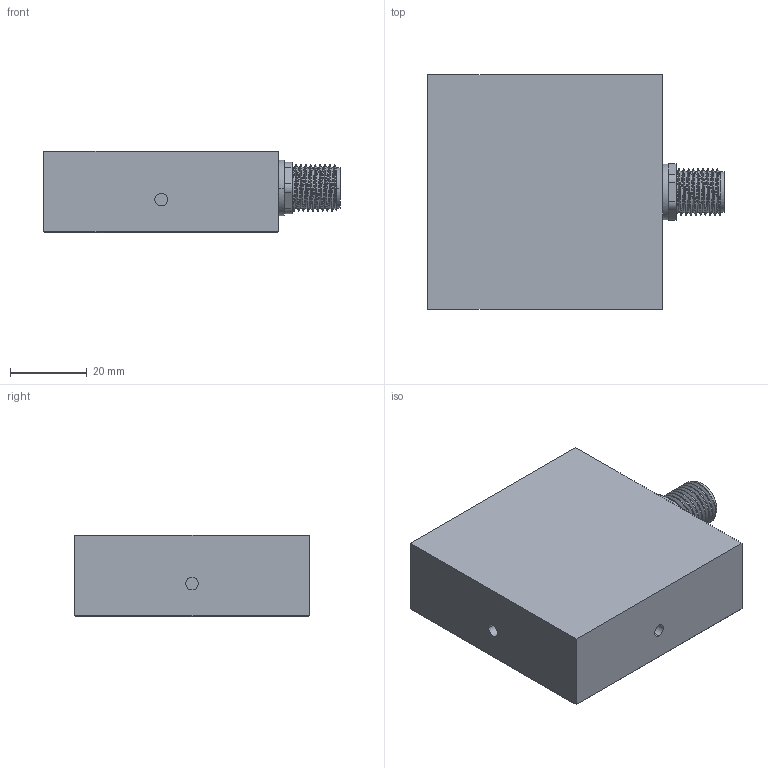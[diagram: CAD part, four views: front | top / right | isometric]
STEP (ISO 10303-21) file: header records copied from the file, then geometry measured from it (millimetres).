
FILE_DESCRIPTION (( 'STEP AP214' ), '1' );
FILE_NAME ('CSBACKII-xxxx-xxx_CLIENT0505.STEP', '2022-04-01T09:18:25', ( '' ), ( '' ), 'SwSTEP 2.0', 'SolidWorks 2020', '' );
FILE_SCHEMA (( 'AUTOMOTIVE_DESIGN' ));
Length unit declared in the file: millimetre
Products named in the file (1): CSBACKII-xxxx-xxx_CLIENT0505
Bounding box: 77 x 61 x 21.06 mm (x, y, z)
Volume: 79476.6 mm3; surface area: 14049.2 mm2
Topology: 1 solids, 2 shells, 304 faces, 771 edges, 506 vertices
Faces by surface type: plane 164, bspline 83, cylinder 49, torus 8
Entity records: 14674 total; most frequent: CARTESIAN_POINT 7911, ORIENTED_EDGE 1542, DIRECTION 1107, EDGE_CURVE 771, VERTEX_POINT 506, LINE 463, VECTOR 463, EDGE_LOOP 339
